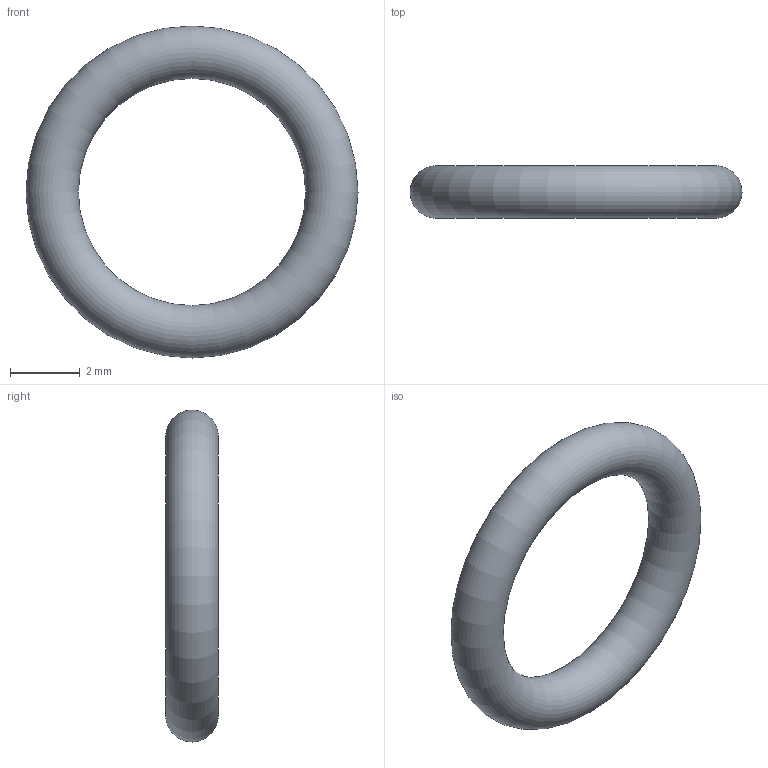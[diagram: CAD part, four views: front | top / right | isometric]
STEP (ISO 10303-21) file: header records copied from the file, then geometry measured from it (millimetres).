
FILE_DESCRIPTION( ( 'STEP AP203' ), '1' );
FILE_NAME( 'C:/Temp/Ganter_Step_05_03_2020/data/3_5/or638/O-Ring OR638-6.50-1.50-70.stp', '2020-03-12T13:44:17', ( 'License CC BY-ND 4.0' ), ( 'CADENAS' ), ' ', 'PARTsolutions', ' ' );
FILE_SCHEMA( ( 'CONFIG_CONTROL_DESIGN' ) );
Length unit declared in the file: millimetre
Products named in the file (1): _O-Ring OR638-6.50-1.50-70
Bounding box: 9.5 x 1.5 x 9.5 mm (x, y, z)
Volume: 44.4 mm3; surface area: 118.4 mm2
Topology: 1 solids, 1 shells, 1 faces, 2 edges, 1 vertices
Faces by surface type: torus 1
Entity records: 62 total; most frequent: CC_DESIGN_PERSON_AND_ORGANIZATION_ASSIGNMENT 5, PERSON_AND_ORGANIZATION_ROLE 4, DIRECTION 4, CARTESIAN_POINT 3, DATE_TIME_ROLE 2, CC_DESIGN_DATE_AND_TIME_ASSIGNMENT 2, AXIS2_PLACEMENT_3D 2, DIMENSIONAL_EXPONENTS 2
